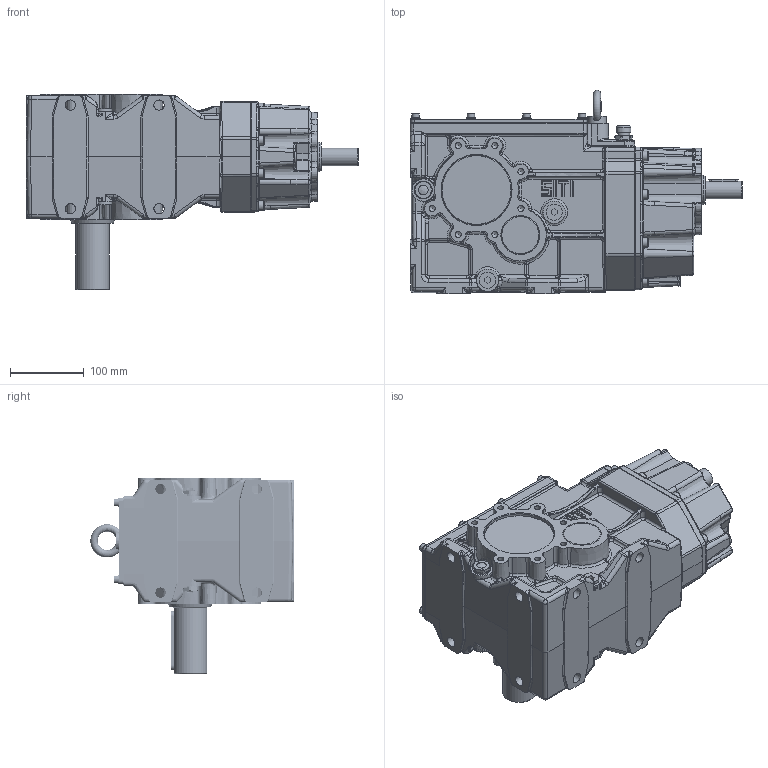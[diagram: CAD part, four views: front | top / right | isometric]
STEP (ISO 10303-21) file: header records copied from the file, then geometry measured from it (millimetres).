
FILE_DESCRIPTION((''),'2;1');
FILE_NAME('O:\Figurini\Figurini BH\3D\80\BH 80 MS-A.stp','2013-05-29T15:53:13',('d.iannaccio'),(''),'Autodesk Inventor 2012','Autodesk Inventor 2012','');
FILE_SCHEMA(('AUTOMOTIVE_DESIGN { 1 0 10303 214 1 1 1 1 }'));
Length unit declared in the file: millimetre
Products named in the file (1): BH_80 MS-A
Bounding box: 449 x 274.98 x 265 mm (x, y, z)
Volume: 4218005.8 mm3; surface area: 878690.2 mm2
Topology: 2 solids, 46 shells, 3440 faces, 8201 edges, 4832 vertices
Faces by surface type: cylinder 1047, plane 916, bspline 750, cone 323, torus 296, sphere 108
Full cylindrical faces by diameter (mm): 4.2 x1, 4.917 x8, 5 x1, 5.3 x1, 6 x16, 6.4 x8, 6.647 x16, 7 x8, 8 x14, 8.376 x16, 8.5 x2, 9 x8, 10 x16, 10.5 x1, 11.445 x1, 12.5 x8, 13 x8, 14 x8, 14.95 x7, 15.995 x1, 16 x2, 16.065 x1, 17 x1, 18 x1, 19 x1, 19.5 x1, 24 x1, 25 x1, 37.5 x2, 39.581 x1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
Entity records: 121640 total; most frequent: CARTESIAN_POINT 44772, DIRECTION 15057, ORIENTED_EDGE 14960, EDGE_CURVE 7480, AXIS2_PLACEMENT_3D 6275, VERTEX_POINT 4662, EDGE_LOOP 4041, STYLED_ITEM 3441
